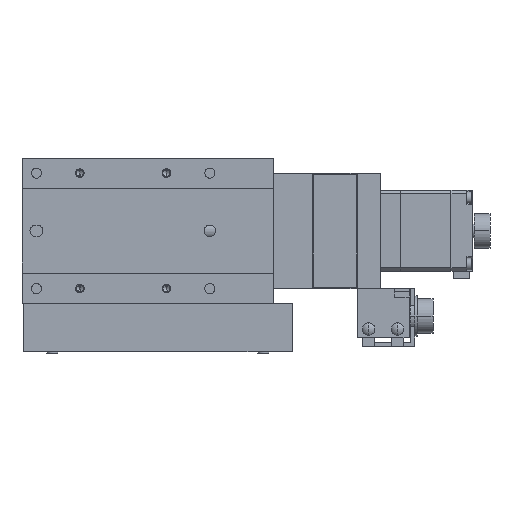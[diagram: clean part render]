
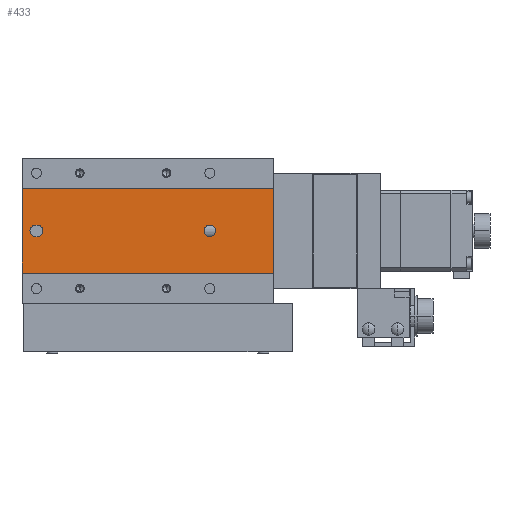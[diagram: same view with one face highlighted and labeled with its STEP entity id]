
A CAD part, front view. The second image highlights one B-rep face of the part: STEP entity #433.
In plain terms, the highlighted planar face has unit normal (0, -1, 0).
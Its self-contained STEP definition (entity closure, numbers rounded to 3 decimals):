
#433=ADVANCED_FACE('',(#1198,#1199,#1200),#1201,.F.);
#1198=FACE_BOUND('',#2556,.T.);
#1199=FACE_OUTER_BOUND('',#2557,.T.);
#1200=FACE_BOUND('',#2558,.T.);
#1201=PLANE('',#2559);
#2556=EDGE_LOOP('',(#4600,#4601,#4602,#4603));
#2557=EDGE_LOOP('',(#4604,#4605,#4606,#4607));
#2558=EDGE_LOOP('',(#4608,#4609,#4610));
#2559=AXIS2_PLACEMENT_3D('',#4611,#4612,#4613);
#4600=ORIENTED_EDGE('',*,*,#9112,.F.);
#4601=ORIENTED_EDGE('',*,*,#9113,.F.);
#4602=ORIENTED_EDGE('',*,*,#9114,.F.);
#4603=ORIENTED_EDGE('',*,*,#9115,.F.);
#4604=ORIENTED_EDGE('',*,*,#9097,.T.);
#4605=ORIENTED_EDGE('',*,*,#9116,.F.);
#4606=ORIENTED_EDGE('',*,*,#9117,.F.);
#4607=ORIENTED_EDGE('',*,*,#9118,.T.);
#4608=ORIENTED_EDGE('',*,*,#8997,.F.);
#4609=ORIENTED_EDGE('',*,*,#8996,.F.);
#4610=ORIENTED_EDGE('',*,*,#9119,.F.);
#4611=CARTESIAN_POINT('',(52.0,0.3,14.6));
#4612=DIRECTION('',(-0.0,1.0,0.0));
#4613=DIRECTION('',(1.0,0.0,0.0));
#8996=EDGE_CURVE('',#10749,#10751,#10752,.F.);
#8997=EDGE_CURVE('',#10751,#10745,#10753,.F.);
#9097=EDGE_CURVE('',#10940,#10938,#10941,.T.);
#9112=EDGE_CURVE('',#10968,#10969,#10970,.F.);
#9113=EDGE_CURVE('',#10971,#10968,#10972,.T.);
#9114=EDGE_CURVE('',#10973,#10971,#10974,.F.);
#9115=EDGE_CURVE('',#10969,#10973,#10975,.T.);
#9116=EDGE_CURVE('',#10976,#10938,#10977,.T.);
#9117=EDGE_CURVE('',#10978,#10976,#10979,.T.);
#9118=EDGE_CURVE('',#10978,#10940,#10980,.T.);
#9119=EDGE_CURVE('',#10745,#10749,#10981,.F.);
#10745=VERTEX_POINT('',#13517);
#10749=VERTEX_POINT('',#13522);
#10751=VERTEX_POINT('',#13525);
#10752=CIRCLE('',#13526,2.0);
#10753=CIRCLE('',#13527,2.0);
#10938=VERTEX_POINT('',#13768);
#10940=VERTEX_POINT('',#13771);
#10941=LINE('',#13772,#13773);
#10968=VERTEX_POINT('',#13813);
#10969=VERTEX_POINT('',#13814);
#10970=CIRCLE('',#13815,2.0);
#10971=VERTEX_POINT('',#13816);
#10972=LINE('',#13817,#13818);
#10973=VERTEX_POINT('',#13819);
#10974=CIRCLE('',#13820,2.0);
#10975=LINE('',#13821,#13822);
#10976=VERTEX_POINT('',#13823);
#10977=LINE('',#13824,#13825);
#10978=VERTEX_POINT('',#13826);
#10979=LINE('',#13827,#13828);
#10980=LINE('',#13829,#13830);
#10981=CIRCLE('',#13831,2.0);
#13517=CARTESIAN_POINT('',(28.0,0.3,0.));
#13522=CARTESIAN_POINT('',(32.0,0.3,0.));
#13525=CARTESIAN_POINT('',(30.0,0.3,2.0));
#13526=AXIS2_PLACEMENT_3D('',#17080,#17081,#17082);
#13527=AXIS2_PLACEMENT_3D('',#17083,#17084,#17085);
#13768=CARTESIAN_POINT('',(-35.0,0.3,-14.6));
#13771=CARTESIAN_POINT('',(-35.0,0.3,14.6));
#13772=CARTESIAN_POINT('',(-35.0,0.3,14.6));
#13773=VECTOR('',#17269,1000.0);
#13813=CARTESIAN_POINT('',(-30.25,0.3,2.0));
#13814=CARTESIAN_POINT('',(-30.25,0.3,-2.0));
#13815=AXIS2_PLACEMENT_3D('',#17286,#17287,#17288);
#13816=CARTESIAN_POINT('',(-29.75,0.3,2.0));
#13817=CARTESIAN_POINT('',(52.0,0.3,2.0));
#13818=VECTOR('',#17289,1000.0);
#13819=CARTESIAN_POINT('',(-29.75,0.3,-2.0));
#13820=AXIS2_PLACEMENT_3D('',#17290,#17291,#17292);
#13821=CARTESIAN_POINT('',(52.0,0.3,-2.0));
#13822=VECTOR('',#17293,1000.0);
#13823=CARTESIAN_POINT('',(52.0,0.3,-14.6));
#13824=CARTESIAN_POINT('',(52.0,0.3,-14.6));
#13825=VECTOR('',#17294,1000.0);
#13826=CARTESIAN_POINT('',(52.0,0.3,14.6));
#13827=CARTESIAN_POINT('',(52.0,0.3,14.6));
#13828=VECTOR('',#17295,1000.0);
#13829=CARTESIAN_POINT('',(52.0,0.3,14.6));
#13830=VECTOR('',#17296,1000.0);
#13831=AXIS2_PLACEMENT_3D('',#17297,#17298,#17299);
#17080=CARTESIAN_POINT('',(30.0,0.3,0.0));
#17081=DIRECTION('',(0.0,1.0,0.0));
#17082=DIRECTION('',(0.0,0.0,1.0));
#17083=CARTESIAN_POINT('',(30.0,0.3,0.0));
#17084=DIRECTION('',(0.0,1.0,0.0));
#17085=DIRECTION('',(0.0,0.0,1.0));
#17269=DIRECTION('',(0.0,0.0,-1.0));
#17286=CARTESIAN_POINT('',(-30.25,0.3,0.0));
#17287=DIRECTION('',(0.0,1.0,0.0));
#17288=DIRECTION('',(0.0,0.0,1.0));
#17289=DIRECTION('',(-1.0,0.0,0.0));
#17290=CARTESIAN_POINT('',(-29.75,0.3,0.0));
#17291=DIRECTION('',(0.0,1.0,0.0));
#17292=DIRECTION('',(0.0,0.0,1.0));
#17293=DIRECTION('',(1.0,0.0,0.0));
#17294=DIRECTION('',(-1.0,0.0,0.0));
#17295=DIRECTION('',(0.0,0.0,-1.0));
#17296=DIRECTION('',(-1.0,0.0,0.0));
#17297=CARTESIAN_POINT('',(30.0,0.3,0.0));
#17298=DIRECTION('',(0.0,1.0,0.0));
#17299=DIRECTION('',(0.0,0.0,1.0));
